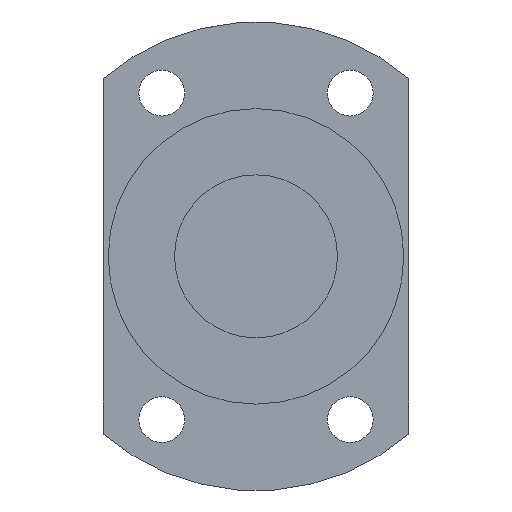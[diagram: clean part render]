
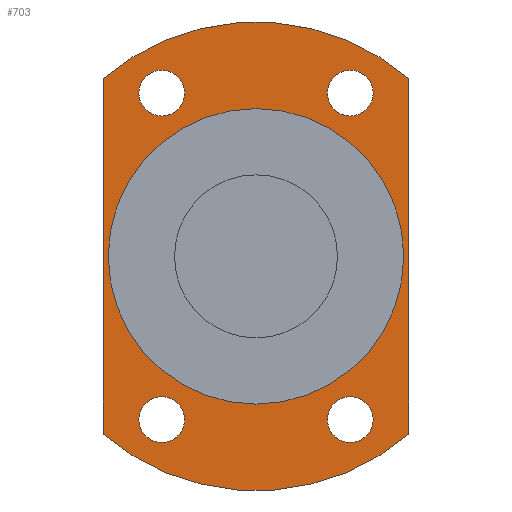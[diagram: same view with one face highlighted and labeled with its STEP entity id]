
A CAD part, left-side view. The second image highlights one B-rep face of the part: STEP entity #703.
In plain terms, the highlighted planar face has unit normal (-1, 0, 0).
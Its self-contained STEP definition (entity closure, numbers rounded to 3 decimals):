
#396=CARTESIAN_POINT('',(17.0,-18.5,-27.543));
#397=VERTEX_POINT('',#396);
#398=CARTESIAN_POINT('',(17.,-18.5,-32.043));
#399=DIRECTION('',(1.0,0.0,0.0));
#400=DIRECTION('',(0.0,0.0,1.0));
#401=AXIS2_PLACEMENT_3D('',#398,#399,#400);
#402=CIRCLE('',#401,4.5);
#403=EDGE_CURVE('',#397,#397,#402,.T.);
#445=CARTESIAN_POINT('',(17.0,18.5,-27.543));
#446=VERTEX_POINT('',#445);
#447=CARTESIAN_POINT('',(17.,18.5,-32.043));
#448=DIRECTION('',(1.0,0.0,0.0));
#449=DIRECTION('',(0.0,0.0,1.0));
#450=AXIS2_PLACEMENT_3D('',#447,#448,#449);
#451=CIRCLE('',#450,4.5);
#452=EDGE_CURVE('',#446,#446,#451,.T.);
#494=CARTESIAN_POINT('',(17.,18.5,36.543));
#495=VERTEX_POINT('',#494);
#496=CARTESIAN_POINT('',(17.,18.5,32.043));
#497=DIRECTION('',(1.0,0.0,0.0));
#498=DIRECTION('',(0.0,0.0,1.0));
#499=AXIS2_PLACEMENT_3D('',#496,#497,#498);
#500=CIRCLE('',#499,4.5);
#501=EDGE_CURVE('',#495,#495,#500,.T.);
#543=CARTESIAN_POINT('',(17.,-18.5,36.543));
#544=VERTEX_POINT('',#543);
#545=CARTESIAN_POINT('',(17.,-18.5,32.043));
#546=DIRECTION('',(1.0,0.0,0.0));
#547=DIRECTION('',(0.0,0.0,1.0));
#548=AXIS2_PLACEMENT_3D('',#545,#546,#547);
#549=CIRCLE('',#548,4.5);
#550=EDGE_CURVE('',#544,#544,#549,.T.);
#570=CARTESIAN_POINT('',(17.,-30.,34.871));
#571=VERTEX_POINT('',#570);
#578=CARTESIAN_POINT('',(17.0,-30.,-34.871));
#579=VERTEX_POINT('',#578);
#580=CARTESIAN_POINT('',(17.0,-30.,-34.871));
#581=DIRECTION('',(0.0,0.0,1.0));
#582=VECTOR('',#581,69.742);
#583=LINE('',#580,#582);
#584=EDGE_CURVE('',#579,#571,#583,.T.);
#610=CARTESIAN_POINT('',(17.0,30.0,-34.871));
#611=VERTEX_POINT('',#610);
#618=CARTESIAN_POINT('',(17.,30.,34.871));
#619=VERTEX_POINT('',#618);
#620=CARTESIAN_POINT('',(17.,30.,34.871));
#621=DIRECTION('',(0.0,0.0,-1.0));
#622=VECTOR('',#621,69.742);
#623=LINE('',#620,#622);
#624=EDGE_CURVE('',#619,#611,#623,.T.);
#649=CARTESIAN_POINT('',(17.,0.0,0.));
#650=DIRECTION('',(-1.0,0.0,0.0));
#651=DIRECTION('',(0.0,0.0,1.0));
#652=AXIS2_PLACEMENT_3D('',#649,#650,#651);
#653=CIRCLE('',#652,46.);
#654=EDGE_CURVE('',#571,#619,#653,.T.);
#663=CARTESIAN_POINT('',(17.,0.0,37.5));
#664=DIRECTION('',(-1.0,0.0,0.0));
#665=DIRECTION('',(0.0,0.0,1.0));
#666=AXIS2_PLACEMENT_3D('',#663,#664,#665);
#667=PLANE('',#666);
#668=ORIENTED_EDGE('',*,*,#584,.T.);
#669=ORIENTED_EDGE('',*,*,#654,.T.);
#670=ORIENTED_EDGE('',*,*,#624,.T.);
#671=CARTESIAN_POINT('',(17.,0.0,0.));
#672=DIRECTION('',(-1.0,0.0,0.0));
#673=DIRECTION('',(0.0,0.0,1.0));
#674=AXIS2_PLACEMENT_3D('',#671,#672,#673);
#675=CIRCLE('',#674,46.);
#676=EDGE_CURVE('',#611,#579,#675,.T.);
#677=ORIENTED_EDGE('',*,*,#676,.T.);
#678=EDGE_LOOP('',(#668,#669,#670,#677));
#679=FACE_OUTER_BOUND('',#678,.T.);
#680=ORIENTED_EDGE('',*,*,#403,.T.);
#681=EDGE_LOOP('',(#680));
#682=FACE_BOUND('',#681,.T.);
#683=ORIENTED_EDGE('',*,*,#452,.T.);
#684=EDGE_LOOP('',(#683));
#685=FACE_BOUND('',#684,.T.);
#686=ORIENTED_EDGE('',*,*,#501,.T.);
#687=EDGE_LOOP('',(#686));
#688=FACE_BOUND('',#687,.T.);
#689=ORIENTED_EDGE('',*,*,#550,.T.);
#690=EDGE_LOOP('',(#689));
#691=FACE_BOUND('',#690,.T.);
#692=CARTESIAN_POINT('',(17.,0.0,29.0));
#693=VERTEX_POINT('',#692);
#694=CARTESIAN_POINT('',(17.,0.0,0.));
#695=DIRECTION('',(-1.0,0.0,0.0));
#696=DIRECTION('',(0.0,0.0,1.0));
#697=AXIS2_PLACEMENT_3D('',#694,#695,#696);
#698=CIRCLE('',#697,29.0);
#699=EDGE_CURVE('',#693,#693,#698,.T.);
#700=ORIENTED_EDGE('',*,*,#699,.F.);
#701=EDGE_LOOP('',(#700));
#702=FACE_BOUND('',#701,.T.);
#703=ADVANCED_FACE('',(#679,#682,#685,#688,#691,#702),#667,.T.);
